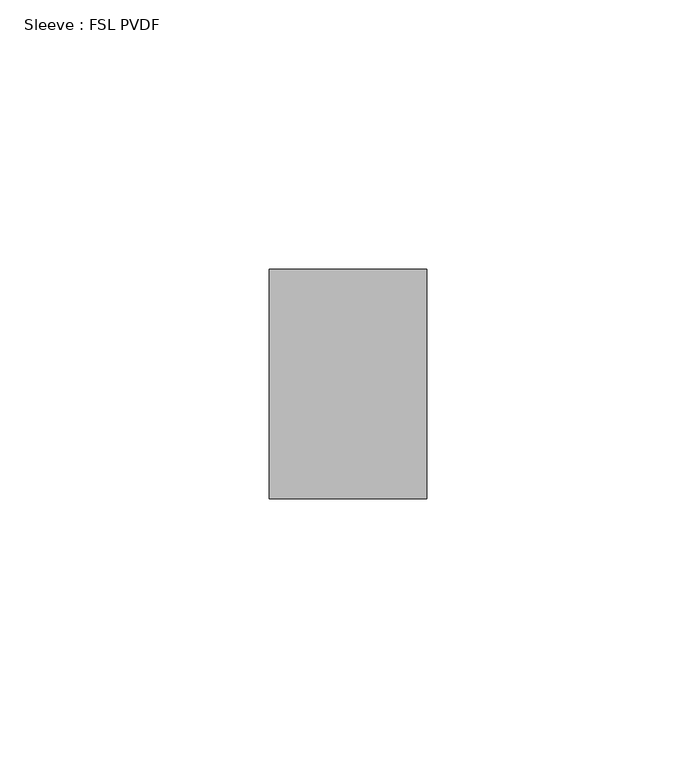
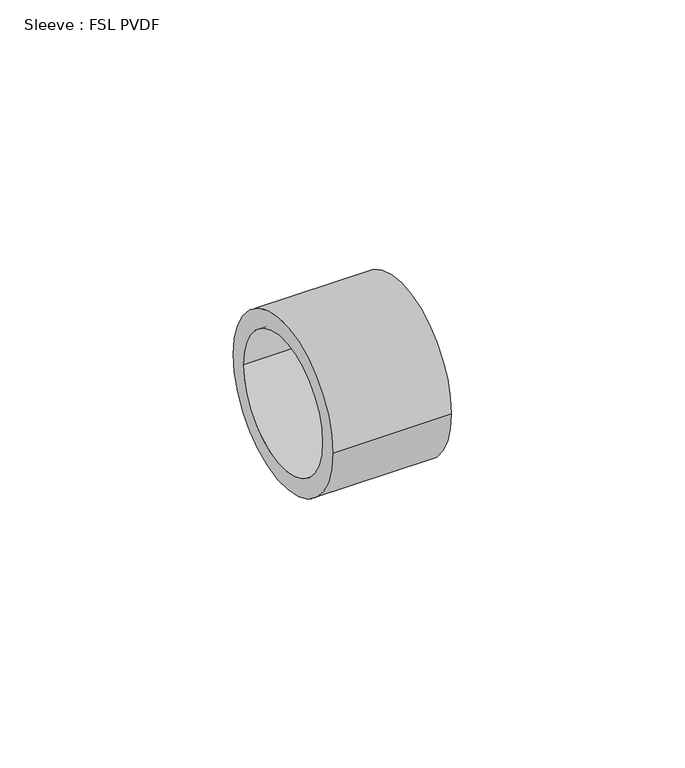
"""IFC4 building model written with IfcOpenShell, lengths in millimetres: pipe fitting geometry, Sleeve : FSL PVDF."""

from ifc_helpers import new_model, si_unit, point, frame, origin, origin_2d, place, context, project, spatial, circle_curve, trimmed, segment, composite_curve, outline, extrude, source, transform, mapped, element, save


def sleeve_fsl_pvdf_64652941(model_context):
    return source(origin(), model_context, "Body", "SweptSolid", [
        extrude(outline(composite_curve([segment(trimmed(circle_curve(origin_2d(), 21.35), [point((-21.35, 0.0))], [point((21.35, 0.0))], False, "CARTESIAN"), True, "CONTINUOUS"), segment(trimmed(circle_curve(origin_2d(), 21.35), [point((21.35, 0.0))], [point((-21.35, 0.0))], False, "CARTESIAN"), True, "CONTINUOUS")], self_intersect=False), holes=[composite_curve([segment(trimmed(circle_curve(origin_2d(), 16.85), [point((-16.85, 0.0))], [point((16.85, 0.0))], True, "CARTESIAN"), True, "CONTINUOUS"), segment(trimmed(circle_curve(origin_2d(), 16.85), [point((16.85, 0.0))], [point((-16.85, 0.0))], True, "CARTESIAN"), True, "CONTINUOUS")], self_intersect=False)]), frame((0.0, 0.0, 0.0), z_axis=(1.0, 0.0, 0.0), x_axis=(0.0, 1.0, 0.0)), (0.0, 0.0, 1.0), 29.3),
    ])


if __name__ == "__main__":
    model = new_model("IFC4")
    model_context = context("Model", 3, world=origin())
    ifc_project = project(units=[si_unit("LENGTHUNIT", "METRE", prefix="MILLI")], contexts=[model_context])
    site = spatial("IfcSite", under=ifc_project)
    building = spatial("IfcBuilding", under=site)
    placement = place(None, origin())
    sleeve_fsl_pvdf_shape = sleeve_fsl_pvdf_64652941(model_context)
    element("IfcPipeFitting", 1, ObjectType="Sleeve : FSL PVDF", at=placement, inside=building, context=model_context, shape_type="MappedRepresentation", body=[
        mapped(sleeve_fsl_pvdf_shape, transform((0.0, 0.0, 0.0), x_axis=(1.0, 0.0, 0.0), y_axis=(0.0, 1.0, 0.0), z_axis=(0.0, 0.0, 1.0))),
    ])
    save(model, "model.ifc")
